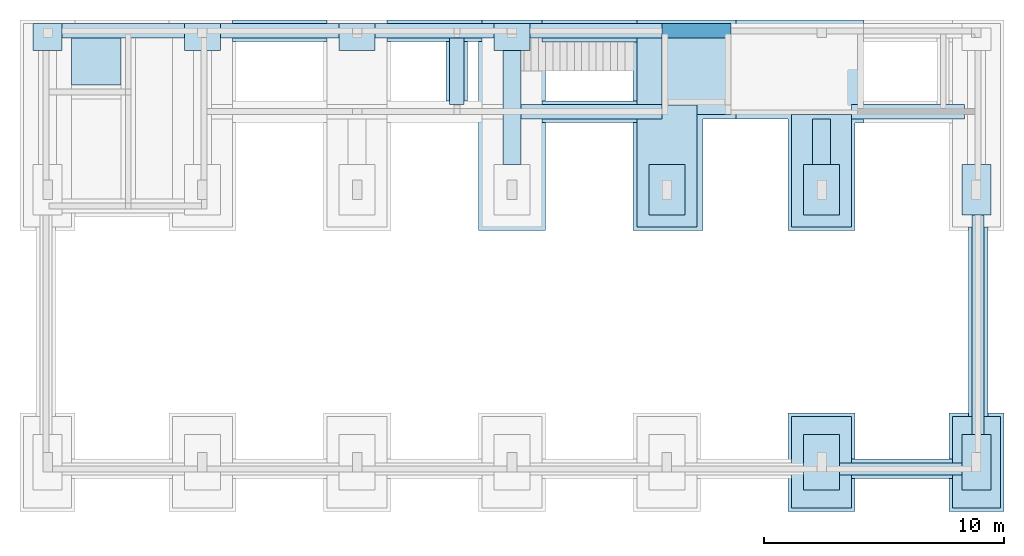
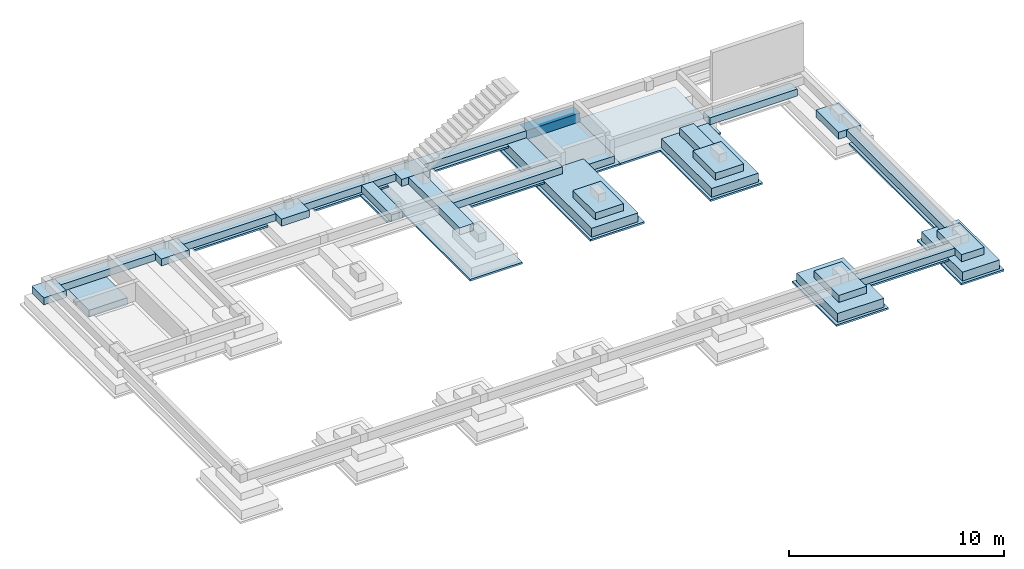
# One storey, part 3 of 6: 39 slabs.
"""IFC2X3 building model written with IfcOpenShell, lengths in centimetres."""

from ifc_helpers import new_model, entity, si_unit, converted_unit, derived_unit, direction, frame, frame_2d, origin, origin_2d_with_axis, place, context, subcontext, project, spatial, polyline, rectangle, outline, extrude, material, layer, layer_set, layer_usage, type_object, element, save


model = new_model("IFC2X3")

# Units and contexts
model_context = context("Model", 3, precision=0.001, world=origin(), true_north=direction((6.12303176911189e-17, 1.0)))
body_context = subcontext(model_context, "Body", "Model", "MODEL_VIEW")
ifc_project = project(units=[si_unit("LENGTHUNIT", "METRE", prefix="CENTI"), si_unit("AREAUNIT", "SQUARE_METRE"), si_unit("VOLUMEUNIT", "CUBIC_METRE"), converted_unit("PLANEANGLEUNIT", "DEGREE", entity("IfcRatioMeasure", 0.0174532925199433), si_unit("PLANEANGLEUNIT", "RADIAN"), dimensions=[0, 0, 0, 0, 0, 0, 0]), si_unit("MASSUNIT", "GRAM", prefix="KILO"), derived_unit("MASSDENSITYUNIT", [(si_unit("MASSUNIT", "GRAM", prefix="KILO"), 1), (si_unit("LENGTHUNIT", "METRE"), -3)]), derived_unit("MOMENTOFINERTIAUNIT", [(si_unit("LENGTHUNIT", "METRE"), 4)]), si_unit("TIMEUNIT", "SECOND"), si_unit("FREQUENCYUNIT", "HERTZ"), si_unit("THERMODYNAMICTEMPERATUREUNIT", "DEGREE_CELSIUS"), derived_unit("THERMALTRANSMITTANCEUNIT", [(si_unit("MASSUNIT", "GRAM", prefix="KILO"), 1), (si_unit("THERMODYNAMICTEMPERATUREUNIT", "KELVIN"), -1), (si_unit("TIMEUNIT", "SECOND"), -3)]), derived_unit("VOLUMETRICFLOWRATEUNIT", [(si_unit("LENGTHUNIT", "METRE"), 3), (si_unit("TIMEUNIT", "SECOND"), -1)]), si_unit("ELECTRICCURRENTUNIT", "AMPERE"), si_unit("ELECTRICVOLTAGEUNIT", "VOLT"), si_unit("POWERUNIT", "WATT"), si_unit("FORCEUNIT", "NEWTON", prefix="KILO"), si_unit("ILLUMINANCEUNIT", "LUX"), si_unit("LUMINOUSFLUXUNIT", "LUMEN"), si_unit("LUMINOUSINTENSITYUNIT", "CANDELA"), derived_unit("USERDEFINED", [(si_unit("MASSUNIT", "GRAM", prefix="KILO"), -1), (si_unit("LENGTHUNIT", "METRE"), -2), (si_unit("TIMEUNIT", "SECOND"), 3), (si_unit("LUMINOUSFLUXUNIT", "LUMEN"), 1)]), derived_unit("LINEARVELOCITYUNIT", [(si_unit("LENGTHUNIT", "METRE"), 1), (si_unit("TIMEUNIT", "SECOND"), -1)]), si_unit("PRESSUREUNIT", "PASCAL"), derived_unit("USERDEFINED", [(si_unit("LENGTHUNIT", "METRE"), -2), (si_unit("MASSUNIT", "GRAM", prefix="KILO"), 1), (si_unit("TIMEUNIT", "SECOND"), -2)]), derived_unit("LINEARFORCEUNIT", [(si_unit("MASSUNIT", "GRAM", prefix="KILO"), 1), (si_unit("LENGTHUNIT", "METRE"), 1), (si_unit("TIMEUNIT", "SECOND"), -2), (si_unit("LENGTHUNIT", "METRE"), -1)]), derived_unit("PLANARFORCEUNIT", [(si_unit("MASSUNIT", "GRAM", prefix="KILO"), 1), (si_unit("LENGTHUNIT", "METRE"), 1), (si_unit("TIMEUNIT", "SECOND"), -2), (si_unit("LENGTHUNIT", "METRE"), -2)])], contexts=[model_context])

# Site, building, storey
site_placement = place(None, origin())
site = spatial("IfcSite", under=ifc_project, at=site_placement, Name="Default", CompositionType="ELEMENT")
building_placement = place(site_placement, origin())
building = spatial("IfcBuilding", under=site, at=building_placement, CompositionType="ELEMENT")
storey_placement = place(building_placement, frame((0.0, 0.0, -115.0)))
storey = spatial("IfcBuildingStorey", under=building, at=storey_placement, Name="Poziom Fundament -1,15", CompositionType="ELEMENT", Elevation=-115.0)

# Slabs
ifc_material_1 = material(Name="_Beton, C25/30")
ifc_layer_1 = layer(ifc_material_1, 40.0)
ifc_layer_set_1 = layer_set([ifc_layer_1], Name="Strop:SF 120 x 210 x 40 cm")
ifc_layer_usage_1 = layer_usage(ifc_layer_set_1, "AXIS3", "POSITIVE", 0.0)
slab_type_1 = type_object("IfcSlabType", Name="Strop:SF 120 x 210 x 40 cm", PredefinedType="FLOOR", material=ifc_layer_set_1)
slab_1_placement = place(storey_placement, origin())
element("IfcSlab", 1, at=slab_1_placement, inside=storey, type_object=slab_type_1, material=ifc_layer_usage_1, Name="Strop:SF 120 x 210 x 40 cm", ObjectType="Strop:SF 120 x 210 x 40 cm", PredefinedType="FLOOR", context=body_context, shape_type="SweptSolid", body=[
    extrude(rectangle(XDim=209.996628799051, YDim=119.998643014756, at=origin_2d_with_axis()), frame((955.734418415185, 1430.12576462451, 40.0), z_axis=(0.0, 0.0, -1.0), x_axis=(0.0, 1.0, 0.0)), (0.0, 0.0, 1.0), 40.0),
])
ifc_layer_2 = layer(ifc_material_1, 50.0)
ifc_layer_set_2 = layer_set([ifc_layer_2], Name="Strop:SF 250 x 847,5 x 50")
ifc_layer_usage_2 = layer_usage(ifc_layer_set_2, "AXIS3", "POSITIVE", 0.0)
slab_type_2 = type_object("IfcSlabType", Name="Strop:SF 250 x 847,5 x 50", PredefinedType="FLOOR", material=ifc_layer_set_2)
slab_2_placement = place(storey_placement, origin())
element("IfcSlab", 2, at=slab_2_placement, inside=storey, type_object=slab_type_2, material=ifc_layer_usage_2, Name="Strop:SF 250 x 847,5 x 50", ObjectType="Strop:SF 250 x 847,5 x 50", PredefinedType="FLOOR", context=body_context, shape_type="SweptSolid", body=[
    extrude(rectangle(XDim=468.000001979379, YDim=250.00004770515, at=frame_2d((2.27373675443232e-13, 0.0), x_axis=(1.0, 0.0))), frame((310.734978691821, 1509.12745122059, 0.0), z_axis=(0.0, 0.0, -1.0), x_axis=(0.0, 1.0, 0.0)), (0.0, 0.0, 1.0), 50.0),
])
ifc_layer_usage_3 = layer_usage(ifc_layer_set_2, "AXIS3", "POSITIVE", 0.0)
slab_type_3 = type_object("IfcSlabType", Name="Strop:SF 250 x 847,5 x 50", PredefinedType="FLOOR", material=ifc_layer_set_2)
slab_3_placement = place(storey_placement, origin())
element("IfcSlab", 3, at=slab_3_placement, inside=storey, type_object=slab_type_3, material=ifc_layer_usage_3, Name="Strop:SF 250 x 847,5 x 50", ObjectType="Strop:SF 250 x 847,5 x 50", PredefinedType="FLOOR", context=body_context, shape_type="SweptSolid", body=[
    extrude(outline(polyline([(-451.666666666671, -118.259205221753), (395.833333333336, -118.259205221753), (395.833333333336, -13.4816372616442), (55.8333333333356, -13.4816372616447), (55.8333333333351, 131.740842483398), (-451.666666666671, 131.740842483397), (-451.666666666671, -118.259205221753)])), frame((-341.005900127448, 1726.79411689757, 0.0), z_axis=(0.0, 0.0, -1.0), x_axis=(0.0, 1.0, 0.0)), (0.0, 0.0, 1.0), 50.0),
])
ifc_layer_3 = layer(ifc_material_1, 50.0)
ifc_layer_set_3 = layer_set([ifc_layer_3], Name="Strop:SF 250 x 380 x 50 cm")
ifc_layer_usage_4 = layer_usage(ifc_layer_set_3, "AXIS3", "POSITIVE", 0.0)
slab_type_4 = type_object("IfcSlabType", Name="Strop:SF 250 x 380 x 50 cm", PredefinedType="FLOOR", material=ifc_layer_set_3)
slab_4_placement = place(storey_placement, origin())
element("IfcSlab", 4, at=slab_4_placement, inside=storey, type_object=slab_type_4, material=ifc_layer_usage_4, Name="Strop:SF 250 x 380 x 50 cm", ObjectType="Strop:SF 250 x 380 x 50 cm", PredefinedType="FLOOR", context=body_context, shape_type="SweptSolid", body=[
    extrude(rectangle(XDim=380.000015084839, YDim=250.00004770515, at=origin_2d_with_axis()), frame((310.734978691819, 295.127457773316, 0.0), z_axis=(0.0, 0.0, -1.0), x_axis=(0.0, 1.0, 0.0)), (0.0, 0.0, 1.0), 50.0),
])
ifc_layer_4 = layer(ifc_material_1, 50.0)
ifc_layer_set_4 = layer_set([ifc_layer_4], Name="Strop:SF 200 x 380 x 50 cm")
ifc_layer_usage_5 = layer_usage(ifc_layer_set_4, "AXIS3", "POSITIVE", 0.0)
slab_type_5 = type_object("IfcSlabType", Name="Strop:SF 200 x 380 x 50 cm", PredefinedType="FLOOR", material=ifc_layer_set_4)
slab_5_placement = place(storey_placement, origin())
element("IfcSlab", 5, at=slab_5_placement, inside=storey, type_object=slab_type_5, material=ifc_layer_usage_5, Name="Strop:SF 200 x 380 x 50 cm", ObjectType="Strop:SF 200 x 380 x 50 cm", PredefinedType="FLOOR", context=body_context, shape_type="SweptSolid", body=[
    extrude(rectangle(XDim=380.000015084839, YDim=199.999944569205, at=origin_2d_with_axis()), frame((955.734983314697, 295.127457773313, 0.0), z_axis=(0.0, 0.0, -1.0), x_axis=(0.0, 1.0, 0.0)), (0.0, 0.0, 1.0), 50.0),
])
ifc_layer_5 = layer(ifc_material_1, 40.0)
ifc_layer_set_5 = layer_set([ifc_layer_5], Name="Strop:SF 120 x 230 x 40 cm")
ifc_layer_usage_6 = layer_usage(ifc_layer_set_5, "AXIS3", "POSITIVE", 0.0)
slab_type_6 = type_object("IfcSlabType", Name="Strop:SF 120 x 230 x 40 cm", PredefinedType="FLOOR", material=ifc_layer_set_5)
slab_6_placement = place(storey_placement, origin())
element("IfcSlab", 6, at=slab_6_placement, inside=storey, type_object=slab_type_6, material=ifc_layer_usage_6, Name="Strop:SF 120 x 230 x 40 cm", ObjectType="Strop:SF 120 x 230 x 40 cm", PredefinedType="FLOOR", context=body_context, shape_type="SweptSolid", body=[
    extrude(rectangle(XDim=229.999999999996, YDim=119.998643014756, at=frame_2d((0.0, -5.32907051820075e-14), x_axis=(1.0, 0.0))), frame((955.734418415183, 295.127431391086, 40.0), z_axis=(0.0, 0.0, -1.0), x_axis=(0.0, 1.0, 0.0)), (0.0, 0.0, 1.0), 40.0),
])
ifc_layer_6 = layer(ifc_material_1, 40.0)
ifc_layer_set_6 = layer_set([ifc_layer_6], Name="Strop:SF 150 x 230 x 40 cm")
ifc_layer_usage_7 = layer_usage(ifc_layer_set_6, "AXIS3", "POSITIVE", 0.0)
slab_type_7 = type_object("IfcSlabType", Name="Strop:SF 150 x 230 x 40 cm", PredefinedType="FLOOR", material=ifc_layer_set_6)
slab_7_placement = place(storey_placement, origin())
element("IfcSlab", 7, at=slab_7_placement, inside=storey, type_object=slab_type_7, material=ifc_layer_usage_7, Name="Strop:SF 150 x 230 x 40 cm", ObjectType="Strop:SF 150 x 230 x 40 cm", PredefinedType="FLOOR", context=body_context, shape_type="SweptSolid", body=[
    extrude(rectangle(XDim=229.999999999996, YDim=150.000000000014, at=origin_2d_with_axis()), frame((310.735011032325, 295.127431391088, 40.0), z_axis=(0.0, 0.0, -1.0), x_axis=(0.0, 1.0, 0.0)), (0.0, 0.0, 1.0), 40.0),
])
ifc_layer_7 = layer(ifc_material_1, 40.0)
ifc_layer_set_7 = layer_set([ifc_layer_7], Name="Strop:SF 150 x 210 x 40 cm")
ifc_layer_usage_8 = layer_usage(ifc_layer_set_7, "AXIS3", "POSITIVE", 0.0)
slab_type_8 = type_object("IfcSlabType", Name="Strop:SF 150 x 210 x 40 cm", PredefinedType="FLOOR", material=ifc_layer_set_7)
slab_8_placement = place(storey_placement, origin())
element("IfcSlab", 8, at=slab_8_placement, inside=storey, type_object=slab_type_8, material=ifc_layer_usage_8, Name="Strop:SF 150 x 210 x 40 cm", ObjectType="Strop:SF 150 x 210 x 40 cm", PredefinedType="FLOOR", context=body_context, shape_type="SweptSolid", body=[
    extrude(rectangle(XDim=209.999290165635, YDim=150.000000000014, at=origin_2d_with_axis()), frame((-334.264858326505, 1430.12709542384, 40.0), z_axis=(0.0, 0.0, -1.0), x_axis=(0.0, 1.0, 0.0)), (0.0, 0.0, 1.0), 40.0),
])
ifc_layer_usage_9 = layer_usage(ifc_layer_set_7, "AXIS3", "POSITIVE", 0.0)
slab_type_9 = type_object("IfcSlabType", Name="Strop:SF 150 x 210 x 40 cm", PredefinedType="FLOOR", material=ifc_layer_set_7)
slab_9_placement = place(storey_placement, origin())
element("IfcSlab", 9, at=slab_9_placement, inside=storey, type_object=slab_type_9, material=ifc_layer_usage_9, Name="Strop:SF 150 x 210 x 40 cm", ObjectType="Strop:SF 150 x 210 x 40 cm", PredefinedType="FLOOR", context=body_context, shape_type="SweptSolid", body=[
    extrude(rectangle(XDim=209.999290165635, YDim=150.000000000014, at=origin_2d_with_axis()), frame((310.735138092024, 1430.12709542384, 40.0), z_axis=(0.0, 0.0, -1.0), x_axis=(0.0, 1.0, 0.0)), (0.0, 0.0, 1.0), 40.0),
])
ifc_layer_8 = layer(ifc_material_1, 40.0)
ifc_layer_set_8 = layer_set([ifc_layer_8], Name="Strop:Ława fundamentowa gr. 40cm")
ifc_layer_usage_10 = layer_usage(ifc_layer_set_8, "AXIS3", "POSITIVE", 0.0)
slab_type_10 = type_object("IfcSlabType", Name="Strop:Ława fundamentowa gr. 40cm", PredefinedType="FLOOR", material=ifc_layer_set_8)
slab_10_placement = place(storey_placement, origin())
element("IfcSlab", 10, at=slab_10_placement, inside=storey, type_object=slab_type_10, material=ifc_layer_usage_10, Name="Strop:Ława fundamentowa gr. 40cm", ObjectType="Strop:Ława fundamentowa gr. 40cm", PredefinedType="FLOOR", context=body_context, shape_type="SweptSolid", body=[
    extrude(rectangle(XDim=190.5, YDim=74.9987288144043, at=origin_2d_with_axis()), frame((310.734258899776, 1630.37674050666, 40.0), z_axis=(0.0, 0.0, -1.0), x_axis=(0.0, 1.0, 0.0)), (0.0, 0.0, 1.0), 40.0),
])
ifc_layer_usage_11 = layer_usage(ifc_layer_set_8, "AXIS3", "POSITIVE", 0.0)
slab_type_11 = type_object("IfcSlabType", Name="Strop:Ława fundamentowa gr. 40cm", PredefinedType="FLOOR", material=ifc_layer_set_8)
slab_11_placement = place(storey_placement, origin())
element("IfcSlab", 11, at=slab_11_placement, inside=storey, type_object=slab_type_11, material=ifc_layer_usage_11, Name="Strop:Ława fundamentowa gr. 40cm", ObjectType="Strop:Ława fundamentowa gr. 40cm", PredefinedType="FLOOR", context=body_context, shape_type="SweptSolid", body=[
    extrude(rectangle(XDim=60.0000206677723, YDim=470.000599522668, at=frame_2d((4.33431068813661e-13, 0.0), x_axis=(1.0, 0.0))), frame((670.735302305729, 1755.62744422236, 40.0), z_axis=(0.0, 0.0, -1.0), x_axis=(0.0, 1.0, 0.0)), (0.0, 0.0, 1.0), 40.0),
])
ifc_layer_9 = layer(ifc_material_1, 40.0)
ifc_layer_set_9 = layer_set([ifc_layer_9], Name="Strop:Płyta fundamentowa gr. 40cm")
ifc_layer_usage_12 = layer_usage(ifc_layer_set_9, "AXIS3", "POSITIVE", 0.0)
slab_type_12 = type_object("IfcSlabType", Name="Strop:Płyta fundamentowa gr. 40cm", PredefinedType="FLOOR", material=ifc_layer_set_9)
slab_12_placement = place(storey_placement, origin())
element("IfcSlab", 12, at=slab_12_placement, inside=storey, type_object=slab_type_12, material=ifc_layer_usage_12, Name="Strop:Płyta fundamentowa gr. 40cm", ObjectType="Strop:Płyta fundamentowa gr. 40cm", PredefinedType="FLOOR", context=body_context, shape_type="SweptSolid", body=[
    extrude(outline(polyline([(-100.166660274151, -144.499976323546), (239.833339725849, -144.499976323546), (239.833339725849, 144.00002252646), (-139.666679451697, 144.00002252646), (-139.666679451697, 0.49995379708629), (-100.166660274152, 0.499953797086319), (-100.166660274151, -144.499976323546)])), frame((-209.765011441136, 1882.79411050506, -10.0), z_axis=(0.0, 0.0, -1.0), x_axis=(0.0, 1.0, 0.0)), (0.0, 0.0, 1.0), 40.0),
])
ifc_layer_10 = layer(ifc_material_1, 40.0)
ifc_layer_set_10 = layer_set([ifc_layer_10], Name="Strop:SF 95 x 150 x 40cm")
ifc_layer_usage_13 = layer_usage(ifc_layer_set_10, "AXIS3", "POSITIVE", 0.0)
slab_type_13 = type_object("IfcSlabType", Name="Strop:SF 95 x 150 x 40cm", PredefinedType="FLOOR", material=ifc_layer_set_10)
slab_13_placement = place(storey_placement, origin())
element("IfcSlab", 13, at=slab_13_placement, inside=storey, type_object=slab_type_13, material=ifc_layer_usage_13, Name="Strop:SF 95 x 150 x 40cm", ObjectType="Strop:SF 95 x 150 x 40cm", PredefinedType="FLOOR", context=body_context, shape_type="SweptSolid", body=[
    extrude(rectangle(XDim=112.500018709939, YDim=150.000000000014, at=origin_2d_with_axis()), frame((-979.264988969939, 2066.37744087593, 40.0), z_axis=(0.0, 0.0, -1.0), x_axis=(0.0, 1.0, 0.0)), (0.0, 0.0, 1.0), 40.0),
])
ifc_layer_usage_14 = layer_usage(ifc_layer_set_10, "AXIS3", "POSITIVE", 0.0)
slab_type_14 = type_object("IfcSlabType", Name="Strop:SF 95 x 150 x 40cm", PredefinedType="FLOOR", material=ifc_layer_set_10)
slab_14_placement = place(storey_placement, origin())
element("IfcSlab", 14, at=slab_14_placement, inside=storey, type_object=slab_type_14, material=ifc_layer_usage_14, Name="Strop:SF 95 x 150 x 40cm", ObjectType="Strop:SF 95 x 150 x 40cm", PredefinedType="FLOOR", context=body_context, shape_type="SweptSolid", body=[
    extrude(rectangle(XDim=112.500018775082, YDim=150.000000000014, at=frame_2d((-2.16715534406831e-13, 0.0), x_axis=(1.0, 0.0))), frame((-1624.26486893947, 2066.3774409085, 40.0), z_axis=(0.0, 0.0, -1.0), x_axis=(0.0, 1.0, 0.0)), (0.0, 0.0, 1.0), 40.0),
])
ifc_layer_usage_15 = layer_usage(ifc_layer_set_10, "AXIS3", "POSITIVE", 0.0)
slab_type_15 = type_object("IfcSlabType", Name="Strop:SF 95 x 150 x 40cm", PredefinedType="FLOOR", material=ifc_layer_set_10)
slab_15_placement = place(storey_placement, origin())
element("IfcSlab", 15, at=slab_15_placement, inside=storey, type_object=slab_type_15, material=ifc_layer_usage_15, Name="Strop:SF 95 x 150 x 40cm", ObjectType="Strop:SF 95 x 150 x 40cm", PredefinedType="FLOOR", context=body_context, shape_type="SweptSolid", body=[
    extrude(rectangle(XDim=112.500018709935, YDim=150.000000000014, at=origin_2d_with_axis()), frame((-2269.26498896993, 2066.37744087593, 40.0), z_axis=(0.0, 0.0, -1.0), x_axis=(0.0, 1.0, 0.0)), (0.0, 0.0, 1.0), 40.0),
])
ifc_layer_11 = layer(ifc_material_1, 40.0)
ifc_layer_set_11 = layer_set([ifc_layer_11], Name="Strop:SF 112,5 x 120 x 40cm")
ifc_layer_usage_16 = layer_usage(ifc_layer_set_11, "AXIS3", "POSITIVE", 0.0)
slab_type_16 = type_object("IfcSlabType", Name="Strop:SF 112,5 x 120 x 40cm", PredefinedType="FLOOR", material=ifc_layer_set_11)
slab_16_placement = place(storey_placement, origin())
element("IfcSlab", 16, at=slab_16_placement, inside=storey, type_object=slab_type_16, material=ifc_layer_usage_16, Name="Strop:SF 112,5 x 120 x 40cm", ObjectType="Strop:SF 112,5 x 120 x 40cm", PredefinedType="FLOOR", context=body_context, shape_type="SweptSolid", body=[
    extrude(rectangle(XDim=112.500018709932, YDim=119.998441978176, at=frame_2d((2.16715534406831e-13, 0.0), x_axis=(1.0, 0.0))), frame((-2914.26582341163, 2066.37744087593, 40.0), z_axis=(0.0, 0.0, -1.0), x_axis=(0.0, 1.0, 0.0)), (0.0, 0.0, 1.0), 40.0),
])
ifc_layer_usage_17 = layer_usage(ifc_layer_set_8, "AXIS3", "POSITIVE", 0.0)
slab_type_17 = type_object("IfcSlabType", Name="Strop:Ława fundamentowa gr. 40cm", PredefinedType="FLOOR", material=ifc_layer_set_8)
slab_17_placement = place(storey_placement, origin())
element("IfcSlab", 17, at=slab_17_placement, inside=storey, type_object=slab_type_17, material=ifc_layer_usage_17, Name="Strop:Ława fundamentowa gr. 40cm", ObjectType="Strop:Ława fundamentowa gr. 40cm", PredefinedType="FLOOR", context=body_context, shape_type="SweptSolid", body=[
    extrude(rectangle(XDim=60.000020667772, YDim=587.000121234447, at=frame_2d((4.33431068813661e-13, 0.0), x_axis=(1.0, 0.0))), frame((-647.765048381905, 1755.62742309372, 40.0), z_axis=(0.0, 0.0, -1.0), x_axis=(0.0, 1.0, 0.0)), (0.0, 0.0, 1.0), 40.0),
])
ifc_layer_usage_18 = layer_usage(ifc_layer_set_8, "AXIS3", "POSITIVE", 0.0)
slab_type_18 = type_object("IfcSlabType", Name="Strop:Ława fundamentowa gr. 40cm", PredefinedType="FLOOR", material=ifc_layer_set_8)
slab_18_placement = place(storey_placement, origin())
element("IfcSlab", 18, at=slab_18_placement, inside=storey, type_object=slab_type_18, material=ifc_layer_usage_18, Name="Strop:Ława fundamentowa gr. 40cm", ObjectType="Strop:Ława fundamentowa gr. 40cm", PredefinedType="FLOOR", context=body_context, shape_type="SweptSolid", body=[
    extrude(rectangle(XDim=475.000691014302, YDim=74.9999999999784, at=frame_2d((-2.1316282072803e-13, 2.70006239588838e-13), x_axis=(1.0, 0.0))), frame((-979.265105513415, 1772.62708601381, 40.0), z_axis=(0.0, 0.0, -1.0), x_axis=(0.0, 1.0, 0.0)), (0.0, 0.0, 1.0), 40.0),
])
ifc_layer_usage_19 = layer_usage(ifc_layer_set_8, "AXIS3", "POSITIVE", 0.0)
slab_type_19 = type_object("IfcSlabType", Name="Strop:Ława fundamentowa gr. 40cm", PredefinedType="FLOOR", material=ifc_layer_set_8)
slab_19_placement = place(storey_placement, origin())
element("IfcSlab", 19, at=slab_19_placement, inside=storey, type_object=slab_type_19, material=ifc_layer_usage_19, Name="Strop:Ława fundamentowa gr. 40cm", ObjectType="Strop:Ława fundamentowa gr. 40cm", PredefinedType="FLOOR", context=body_context, shape_type="SweptSolid", body=[
    extrude(rectangle(XDim=277.000018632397, YDim=59.9999999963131, at=frame_2d((0.0, 1.08357767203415e-13), x_axis=(1.0, 0.0))), frame((-1209.26499418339, 1924.12744274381, 40.0), z_axis=(0.0, 0.0, -1.0), x_axis=(0.0, 1.0, 0.0)), (0.0, 0.0, 1.0), 40.0),
])
ifc_layer_usage_20 = layer_usage(ifc_layer_set_8, "AXIS3", "POSITIVE", 0.0)
slab_type_20 = type_object("IfcSlabType", Name="Strop:Ława fundamentowa gr. 40cm", PredefinedType="FLOOR", material=ifc_layer_set_8)
slab_20_placement = place(storey_placement, origin())
element("IfcSlab", 20, at=slab_20_placement, inside=storey, type_object=slab_type_20, material=ifc_layer_usage_20, Name="Strop:Ława fundamentowa gr. 40cm", ObjectType="Strop:Ława fundamentowa gr. 40cm", PredefinedType="FLOOR", context=body_context, shape_type="SweptSolid", body=[
    extrude(rectangle(XDim=50.0000000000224, YDim=510.000085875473, at=frame_2d((-1.24344978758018e-14, 5.6843418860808e-14), x_axis=(1.0, 0.0))), frame((640.735053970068, 267.627452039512, 40.0), z_axis=(0.0, 0.0, -1.0), x_axis=(0.0, 1.0, 0.0)), (0.0, 0.0, 1.0), 40.0),
])
ifc_layer_usage_21 = layer_usage(ifc_layer_set_8, "AXIS3", "POSITIVE", 0.0)
slab_type_21 = type_object("IfcSlabType", Name="Strop:Ława fundamentowa gr. 40cm", PredefinedType="FLOOR", material=ifc_layer_set_8)
slab_21_placement = place(storey_placement, origin())
element("IfcSlab", 21, at=slab_21_placement, inside=storey, type_object=slab_type_21, material=ifc_layer_usage_21, Name="Strop:Ława fundamentowa gr. 40cm", ObjectType="Strop:Ława fundamentowa gr. 40cm", PredefinedType="FLOOR", context=body_context, shape_type="SweptSolid", body=[
    extrude(rectangle(XDim=59.9999998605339, YDim=510.001267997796, at=frame_2d((0.0, 4.40536496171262e-13), x_axis=(1.0, 0.0))), frame((-2599.26562296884, 2092.62745030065, 40.0), z_axis=(0.0, 0.0, -1.0), x_axis=(0.0, 1.0, 0.0)), (0.0, 0.0, 1.0), 40.0),
])
ifc_layer_usage_22 = layer_usage(ifc_layer_set_8, "AXIS3", "POSITIVE", 0.0)
slab_type_22 = type_object("IfcSlabType", Name="Strop:Ława fundamentowa gr. 40cm", PredefinedType="FLOOR", material=ifc_layer_set_8)
slab_22_placement = place(storey_placement, origin())
element("IfcSlab", 22, at=slab_22_placement, inside=storey, type_object=slab_type_22, material=ifc_layer_usage_22, Name="Strop:Ława fundamentowa gr. 40cm", ObjectType="Strop:Ława fundamentowa gr. 40cm", PredefinedType="FLOOR", context=body_context, shape_type="SweptSolid", body=[
    extrude(rectangle(XDim=59.9999998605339, YDim=495.000120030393, at=frame_2d((0.0, 3.26849658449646e-13), x_axis=(1.0, 0.0))), frame((-1946.76492895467, 2092.62745030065, 40.0), z_axis=(0.0, 0.0, -1.0), x_axis=(0.0, 1.0, 0.0)), (0.0, 0.0, 1.0), 40.0),
])
ifc_layer_usage_23 = layer_usage(ifc_layer_set_8, "AXIS3", "POSITIVE", 0.0)
slab_type_23 = type_object("IfcSlabType", Name="Strop:Ława fundamentowa gr. 40cm", PredefinedType="FLOOR", material=ifc_layer_set_8)
slab_23_placement = place(storey_placement, origin())
element("IfcSlab", 23, at=slab_23_placement, inside=storey, type_object=slab_type_23, material=ifc_layer_usage_23, Name="Strop:Ława fundamentowa gr. 40cm", ObjectType="Strop:Ława fundamentowa gr. 40cm", PredefinedType="FLOOR", context=body_context, shape_type="SweptSolid", body=[
    extrude(rectangle(XDim=915.000018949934, YDim=50.0000000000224, at=origin_2d_with_axis()), frame((963.235011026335, 867.627440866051, 40.0), z_axis=(0.0, 0.0, -1.0), x_axis=(0.0, 1.0, 0.0)), (0.0, 0.0, 1.0), 40.0),
])
ifc_layer_usage_24 = layer_usage(ifc_layer_set_8, "AXIS3", "POSITIVE", 0.0)
slab_type_24 = type_object("IfcSlabType", Name="Strop:Ława fundamentowa gr. 40cm", PredefinedType="FLOOR", material=ifc_layer_set_8)
slab_24_placement = place(storey_placement, origin())
element("IfcSlab", 24, at=slab_24_placement, inside=storey, type_object=slab_type_24, material=ifc_layer_usage_24, Name="Strop:Ława fundamentowa gr. 40cm", ObjectType="Strop:Ława fundamentowa gr. 40cm", PredefinedType="FLOOR", context=body_context, shape_type="SweptSolid", body=[
    extrude(rectangle(XDim=59.9999998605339, YDim=495.000120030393, at=frame_2d((0.0, 2.1316282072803e-13), x_axis=(1.0, 0.0))), frame((-1301.76480892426, 2092.62745030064, 40.0), z_axis=(0.0, 0.0, -1.0), x_axis=(0.0, 1.0, 0.0)), (0.0, 0.0, 1.0), 40.0),
])
ifc_layer_usage_25 = layer_usage(ifc_layer_set_8, "AXIS3", "POSITIVE", 0.0)
slab_type_25 = type_object("IfcSlabType", Name="Strop:Ława fundamentowa gr. 40cm", PredefinedType="FLOOR", material=ifc_layer_set_8)
slab_25_placement = place(storey_placement, origin())
element("IfcSlab", 25, at=slab_25_placement, inside=storey, type_object=slab_type_25, material=ifc_layer_usage_25, Name="Strop:Ława fundamentowa gr. 40cm", ObjectType="Strop:Ława fundamentowa gr. 40cm", PredefinedType="FLOOR", context=body_context, shape_type="SweptSolid", body=[
    extrude(rectangle(XDim=59.9999998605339, YDim=549.999876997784, at=frame_2d((2.16715534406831e-13, 0.0), x_axis=(1.0, 0.0))), frame((-629.265050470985, 2092.62745030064, 40.0), z_axis=(0.0, 0.0, -1.0), x_axis=(0.0, 1.0, 0.0)), (0.0, 0.0, 1.0), 40.0),
])
ifc_material_2 = material(Name="Beton zacierany")
ifc_layer_12 = layer(ifc_material_2, 10.0)
ifc_layer_set_12 = layer_set([ifc_layer_12], Name="Strop:Chudy beton gr. 10cm")
ifc_layer_usage_26 = layer_usage(ifc_layer_set_12, "AXIS3", "POSITIVE", 0.0)
slab_type_26 = type_object("IfcSlabType", Name="Strop:Chudy beton gr. 10cm", PredefinedType="FLOOR", material=ifc_layer_set_12)
slab_26_placement = place(storey_placement, origin())
element("IfcSlab", 26, at=slab_26_placement, inside=storey, type_object=slab_type_26, material=ifc_layer_usage_26, Name="Strop:Chudy beton gr. 10cm", ObjectType="Strop:Chudy beton gr. 10cm", PredefinedType="FLOOR", context=body_context, shape_type="SweptSolid", body=[
    extrude(rectangle(XDim=410.000015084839, YDim=280.00004770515, at=frame_2d((2.8421709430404e-14, 0.0), x_axis=(1.0, 0.0))), frame((310.734978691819, 295.127457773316, -50.0), z_axis=(0.0, 0.0, -1.0), x_axis=(0.0, 1.0, 0.0)), (0.0, 0.0, 1.0), 10.0),
])
ifc_layer_usage_27 = layer_usage(ifc_layer_set_12, "AXIS3", "POSITIVE", 0.0)
slab_type_27 = type_object("IfcSlabType", Name="Strop:Chudy beton gr. 10cm", PredefinedType="FLOOR", material=ifc_layer_set_12)
slab_27_placement = place(storey_placement, origin())
element("IfcSlab", 27, at=slab_27_placement, inside=storey, type_object=slab_type_27, material=ifc_layer_usage_27, Name="Strop:Chudy beton gr. 10cm", ObjectType="Strop:Chudy beton gr. 10cm", PredefinedType="FLOOR", context=body_context, shape_type="SweptSolid", body=[
    extrude(rectangle(XDim=410.000015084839, YDim=229.999944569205, at=frame_2d((2.8421709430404e-14, 0.0), x_axis=(1.0, 0.0))), frame((955.734983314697, 295.127457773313, -50.0), z_axis=(0.0, 0.0, -1.0), x_axis=(0.0, 1.0, 0.0)), (0.0, 0.0, 1.0), 10.0),
])
ifc_layer_usage_28 = layer_usage(ifc_layer_set_12, "AXIS3", "POSITIVE", 0.0)
slab_type_28 = type_object("IfcSlabType", Name="Strop:Chudy beton gr. 10cm", PredefinedType="FLOOR", material=ifc_layer_set_12)
slab_28_placement = place(storey_placement, origin())
element("IfcSlab", 28, at=slab_28_placement, inside=storey, type_object=slab_type_28, material=ifc_layer_usage_28, Name="Strop:Chudy beton gr. 10cm", ObjectType="Strop:Chudy beton gr. 10cm", PredefinedType="FLOOR", context=body_context, shape_type="SweptSolid", body=[
    extrude(rectangle(XDim=877.500000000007, YDim=280.00004770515, at=origin_2d_with_axis()), frame((-979.265085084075, 1698.8774502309, -50.0), z_axis=(0.0, 0.0, -1.0), x_axis=(0.0, 1.0, 0.0)), (0.0, 0.0, 1.0), 10.0),
])
ifc_layer_usage_29 = layer_usage(ifc_layer_set_12, "AXIS3", "POSITIVE", 0.0)
slab_type_29 = type_object("IfcSlabType", Name="Strop:Chudy beton gr. 10cm", PredefinedType="FLOOR", material=ifc_layer_set_12)
slab_29_placement = place(storey_placement, origin())
element("IfcSlab", 29, at=slab_29_placement, inside=storey, type_object=slab_type_29, material=ifc_layer_usage_29, Name="Strop:Chudy beton gr. 10cm", ObjectType="Strop:Chudy beton gr. 10cm", PredefinedType="FLOOR", context=body_context, shape_type="SweptSolid", body=[
    extrude(outline(polyline([(-447.666660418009, -239.638309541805), (429.833339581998, -239.638309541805), (429.833339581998, 189.276619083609), (17.8333208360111, 189.276619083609), (17.8333208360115, 50.361690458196), (-447.666660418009, 50.3616904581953), (-447.666660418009, -239.638309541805)])), frame((-234.626795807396, 1707.79411064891, -50.0), z_axis=(0.0, 0.0, -1.0), x_axis=(0.0, 1.0, 0.0)), (0.0, 0.0, 1.0), 10.0),
])
ifc_layer_usage_30 = layer_usage(ifc_layer_set_12, "AXIS3", "POSITIVE", 0.0)
slab_type_30 = type_object("IfcSlabType", Name="Strop:Chudy beton gr. 10cm", PredefinedType="FLOOR", material=ifc_layer_set_12)
slab_30_placement = place(storey_placement, origin())
element("IfcSlab", 30, at=slab_30_placement, inside=storey, type_object=slab_type_30, material=ifc_layer_usage_30, Name="Strop:Chudy beton gr. 10cm", ObjectType="Strop:Chudy beton gr. 10cm", PredefinedType="FLOOR", context=body_context, shape_type="SweptSolid", body=[
    extrude(outline(polyline([(17.7499843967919, -310.813933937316), (429.750003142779, -310.813933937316), (429.750003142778, 220.271666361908), (0.250009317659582, 220.271666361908), (0.250009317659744, 185.271157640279), (-447.74999685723, 185.27115764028), (-447.74999685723, -94.7288900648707), (17.7499843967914, -94.7288900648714), (17.7499843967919, -310.813933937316)])), frame((265.463757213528, 1707.87744708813, -50.0), z_axis=(0.0, 0.0, -1.0), x_axis=(0.0, 1.0, 0.0)), (0.0, 0.0, 1.0), 10.0),
])
ifc_layer_13 = layer(ifc_material_1, 50.0)
ifc_layer_set_13 = layer_set([ifc_layer_13], Name="Strop:ŁF 50 cm")
ifc_layer_usage_31 = layer_usage(ifc_layer_set_13, "AXIS3", "POSITIVE", 0.0)
slab_type_31 = type_object("IfcSlabType", Name="Strop:ŁF 50 cm", PredefinedType="FLOOR", material=ifc_layer_set_13)
slab_31_placement = place(storey_placement, origin())
element("IfcSlab", 31, at=slab_31_placement, inside=storey, type_object=slab_type_31, material=ifc_layer_usage_31, Name="Strop:ŁF 50 cm", ObjectType="Strop:ŁF 50 cm", PredefinedType="FLOOR", context=body_context, shape_type="SweptSolid", body=[
    extrude(rectangle(XDim=59.9999998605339, YDim=288.500123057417, at=frame_2d((0.0, 1.27897692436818e-13), x_axis=(1.0, 0.0))), frame((-210.015050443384, 2092.62745030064, 40.0), z_axis=(0.0, 0.0, -1.0), x_axis=(0.0, 1.0, 0.0)), (0.0, 0.0, 1.0), 50.0),
])
ifc_layer_usage_32 = layer_usage(ifc_layer_set_9, "AXIS3", "POSITIVE", 0.0)
slab_type_32 = type_object("IfcSlabType", Name="Strop:Płyta fundamentowa gr. 40cm", PredefinedType="FLOOR", material=ifc_layer_set_9)
slab_32_placement = place(storey_placement, origin())
element("IfcSlab", 32, at=slab_32_placement, inside=storey, type_object=slab_type_32, material=ifc_layer_usage_32, Name="Strop:Płyta fundamentowa gr. 40cm", ObjectType="Strop:Płyta fundamentowa gr. 40cm", PredefinedType="FLOOR", context=body_context, shape_type="SweptSolid", body=[
    extrude(rectangle(XDim=255.099998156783, YDim=206.00054296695, at=frame_2d((0.0, -4.33431068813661e-13), x_axis=(1.0, 0.0))), frame((-2711.26537920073, 1995.07745115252, 0.0), z_axis=(0.0, 0.0, -1.0), x_axis=(0.0, 1.0, 0.0)), (0.0, 0.0, 1.0), 40.0),
])
ifc_layer_usage_33 = layer_usage(ifc_layer_set_12, "AXIS3", "POSITIVE", 0.0)
slab_type_33 = type_object("IfcSlabType", Name="Strop:Chudy beton gr. 10cm", PredefinedType="FLOOR", material=ifc_layer_set_12)
slab_33_placement = place(storey_placement, origin())
element("IfcSlab", 33, at=slab_33_placement, inside=storey, type_object=slab_type_33, material=ifc_layer_usage_33, Name="Strop:Chudy beton gr. 10cm", ObjectType="Strop:Chudy beton gr. 10cm", PredefinedType="FLOOR", context=body_context, shape_type="SweptSolid", body=[
    extrude(rectangle(XDim=89.9999998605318, YDim=395.000072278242, at=frame_2d((2.16715534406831e-13, 0.0), x_axis=(1.0, 0.0))), frame((-1946.76502504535, 2092.62745030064, 0.0), z_axis=(0.0, 0.0, -1.0), x_axis=(0.0, 1.0, 0.0)), (0.0, 0.0, 1.0), 10.0),
])
ifc_layer_usage_34 = layer_usage(ifc_layer_set_12, "AXIS3", "POSITIVE", 0.0)
slab_type_34 = type_object("IfcSlabType", Name="Strop:Chudy beton gr. 10cm", PredefinedType="FLOOR", material=ifc_layer_set_12)
slab_34_placement = place(storey_placement, origin())
element("IfcSlab", 34, at=slab_34_placement, inside=storey, type_object=slab_type_34, material=ifc_layer_usage_34, Name="Strop:Chudy beton gr. 10cm", ObjectType="Strop:Chudy beton gr. 10cm", PredefinedType="FLOOR", context=body_context, shape_type="SweptSolid", body=[
    extrude(rectangle(XDim=89.9999998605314, YDim=395.000072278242, at=origin_2d_with_axis()), frame((-1301.76490506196, 2092.62745030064, 0.0), z_axis=(0.0, 0.0, -1.0), x_axis=(0.0, 1.0, 0.0)), (0.0, 0.0, 1.0), 10.0),
])
ifc_layer_usage_35 = layer_usage(ifc_layer_set_12, "AXIS3", "POSITIVE", 0.0)
slab_type_35 = type_object("IfcSlabType", Name="Strop:Chudy beton gr. 10cm", PredefinedType="FLOOR", material=ifc_layer_set_12)
slab_35_placement = place(storey_placement, origin())
element("IfcSlab", 35, at=slab_35_placement, inside=storey, type_object=slab_type_35, material=ifc_layer_usage_35, Name="Strop:Chudy beton gr. 10cm", ObjectType="Strop:Chudy beton gr. 10cm", PredefinedType="FLOOR", context=body_context, shape_type="SweptSolid", body=[
    extrude(rectangle(XDim=92.4999981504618, YDim=394.999955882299, at=frame_2d((4.33431068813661e-13, 0.0), x_axis=(1.0, 0.0))), frame((-656.765083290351, 2091.37745115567, 0.0), z_axis=(0.0, 0.0, -1.0), x_axis=(0.0, 1.0, 0.0)), (0.0, 0.0, 1.0), 10.0),
])
ifc_layer_usage_36 = layer_usage(ifc_layer_set_12, "AXIS3", "POSITIVE", 0.0)
slab_type_36 = type_object("IfcSlabType", Name="Strop:Chudy beton gr. 10cm", PredefinedType="FLOOR", material=ifc_layer_set_12)
slab_36_placement = place(storey_placement, origin())
element("IfcSlab", 36, at=slab_36_placement, inside=storey, type_object=slab_type_36, material=ifc_layer_usage_36, Name="Strop:Chudy beton gr. 10cm", ObjectType="Strop:Chudy beton gr. 10cm", PredefinedType="FLOOR", context=body_context, shape_type="SweptSolid", body=[
    extrude(rectangle(XDim=247.000016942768, YDim=89.9999998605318, at=origin_2d_with_axis()), frame((-1209.26499418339, 1924.12744189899, 0.0), z_axis=(0.0, 0.0, -1.0), x_axis=(0.0, 1.0, 0.0)), (0.0, 0.0, 1.0), 10.0),
])
ifc_layer_usage_37 = layer_usage(ifc_layer_set_12, "AXIS3", "POSITIVE", 0.0)
slab_type_37 = type_object("IfcSlabType", Name="Strop:Chudy beton gr. 10cm", PredefinedType="FLOOR", material=ifc_layer_set_12)
slab_37_placement = place(storey_placement, origin())
element("IfcSlab", 37, at=slab_37_placement, inside=storey, type_object=slab_type_37, material=ifc_layer_usage_37, Name="Strop:Chudy beton gr. 10cm", ObjectType="Strop:Chudy beton gr. 10cm", PredefinedType="FLOOR", context=body_context, shape_type="SweptSolid", body=[
    extrude(rectangle(XDim=80.0000000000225, YDim=790.000008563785, at=frame_2d((4.33431068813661e-13, 5.6843418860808e-14), x_axis=(1.0, 0.0))), frame((963.235011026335, 880.127445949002, 0.0), z_axis=(0.0, 0.0, -1.0), x_axis=(1.0, 0.0, 0.0)), (0.0, 0.0, 1.0), 10.0),
])
ifc_layer_usage_38 = layer_usage(ifc_layer_set_12, "AXIS3", "POSITIVE", 0.0)
slab_type_38 = type_object("IfcSlabType", Name="Strop:Chudy beton gr. 10cm", PredefinedType="FLOOR", material=ifc_layer_set_12)
slab_38_placement = place(storey_placement, origin())
element("IfcSlab", 38, at=slab_38_placement, inside=storey, type_object=slab_type_38, material=ifc_layer_usage_38, Name="Strop:Chudy beton gr. 10cm", ObjectType="Strop:Chudy beton gr. 10cm", PredefinedType="FLOOR", context=body_context, shape_type="SweptSolid", body=[
    extrude(rectangle(XDim=89.9999998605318, YDim=395.000072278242, at=origin_2d_with_axis()), frame((-656.765025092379, 1755.62743349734, 0.0), z_axis=(0.0, 0.0, -1.0), x_axis=(0.0, 1.0, 0.0)), (0.0, 0.0, 1.0), 10.0),
])
ifc_layer_usage_39 = layer_usage(ifc_layer_set_12, "AXIS3", "POSITIVE", 0.0)
slab_type_39 = type_object("IfcSlabType", Name="Strop:Chudy beton gr. 10cm", PredefinedType="FLOOR", material=ifc_layer_set_12)
slab_39_placement = place(storey_placement, origin())
element("IfcSlab", 39, at=slab_39_placement, inside=storey, type_object=slab_type_39, material=ifc_layer_usage_39, Name="Strop:Chudy beton gr. 10cm", ObjectType="Strop:Chudy beton gr. 10cm", PredefinedType="FLOOR", context=body_context, shape_type="SweptSolid", body=[
    extrude(rectangle(XDim=80.0000000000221, YDim=419.999892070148, at=frame_2d((-2.48689957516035e-14, 0.0), x_axis=(1.0, 0.0))), frame((645.734948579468, 267.627452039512, 0.0), z_axis=(0.0, 0.0, -1.0), x_axis=(0.0, 1.0, 0.0)), (0.0, 0.0, 1.0), 10.0),
])

save(model, "model.ifc")
